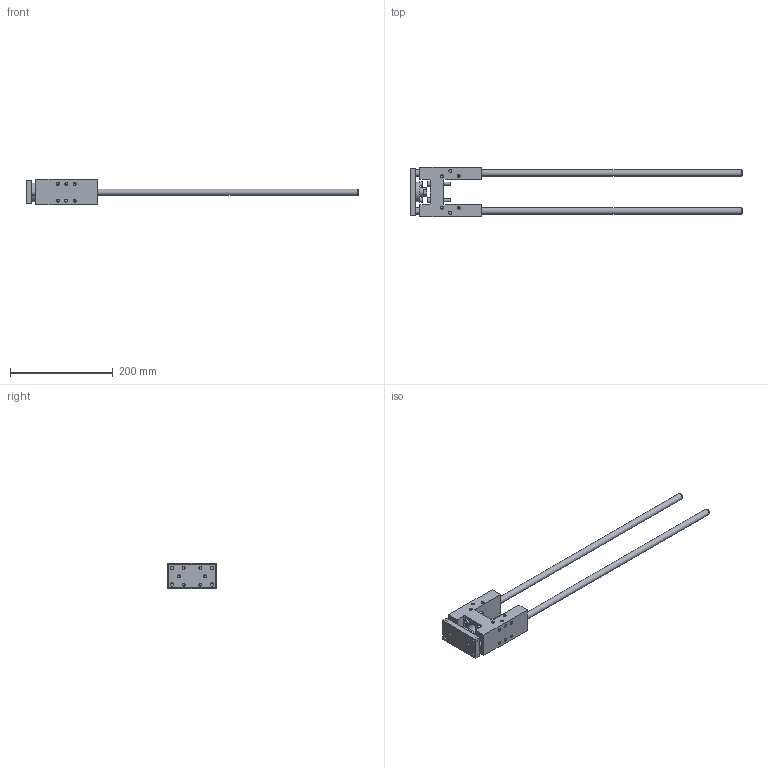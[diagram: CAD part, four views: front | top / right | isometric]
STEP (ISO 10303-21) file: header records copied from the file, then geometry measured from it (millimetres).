
FILE_DESCRIPTION( ( 'STEP AP214' ), '1' );
FILE_NAME( 'U:/Etudes/Top Solid/BIBLIO 3D AVM/TOP/PNEUMATIQUE/GUIDAGES/Type 32 (en H)/_Classique/324A8_30.step', '2005-05-27T11:34:48', ( ' ' ), ( ' ' ), 'XStep 1.0', ' ', ' ' );
FILE_SCHEMA( ( 'automotive_design' ) );
Length unit declared in the file: metre
Products named in the file (2): 1; 2
Bounding box: 647 x 97 x 49 mm (x, y, z)
Volume: 487679.4 mm3; surface area: 129793.1 mm2
Topology: 2 solids, 5 shells, 277 faces, 637 edges, 424 vertices
Faces by surface type: plane 132, cylinder 104, cone 41
Full cylindrical faces by diameter (mm): 4.918 x32, 5 x4, 5.5 x2, 6 x16, 6.2 x12, 6.5 x4, 6.6 x4, 8.5 x2, 8.647 x2, 10 x4, 11 x4, 12 x4, 16 x1, 18 x1, 22.8 x1, 25 x1, 30 x1, 38 x1
Entity records: 8975 total; most frequent: CARTESIAN_POINT 1247, DIRECTION 1198, ORIENTED_EDGE 832, AXIS2_PLACEMENT_3D 511, EDGE_LOOP 502, EDGE_CURVE 416, FACE_OUTER_BOUND 371, VERTEX_POINT 356
